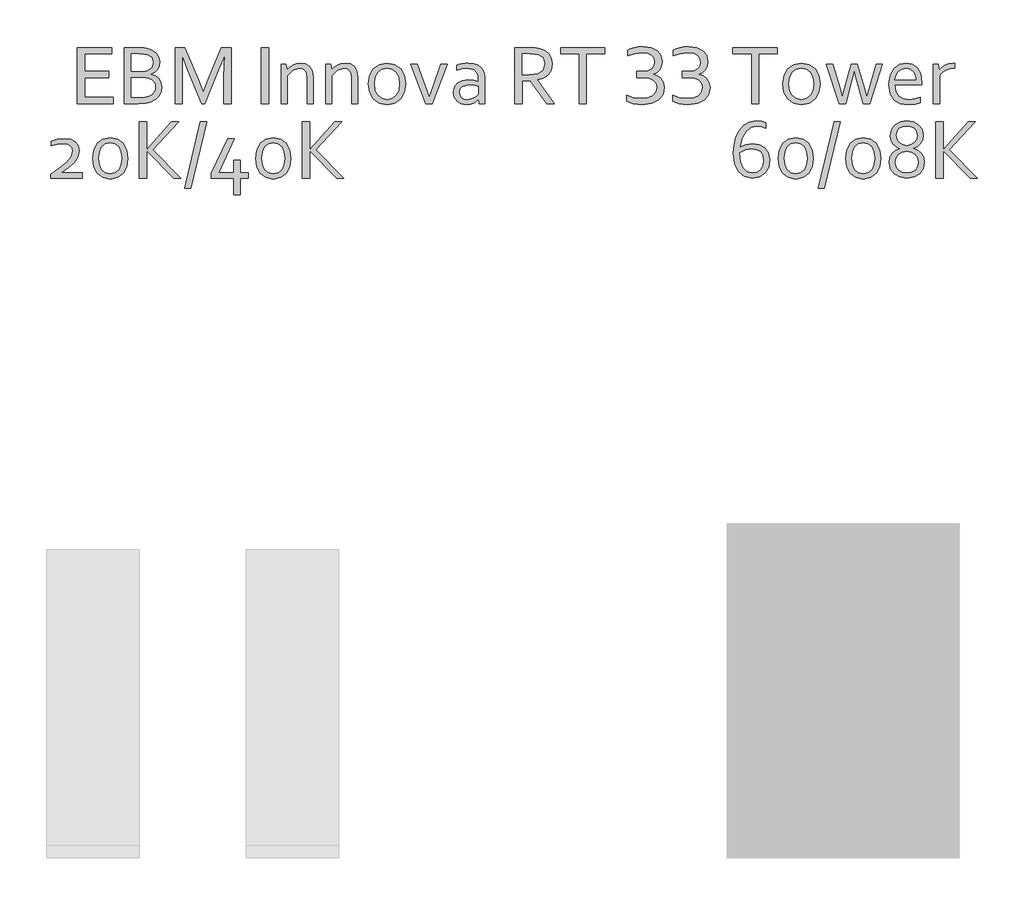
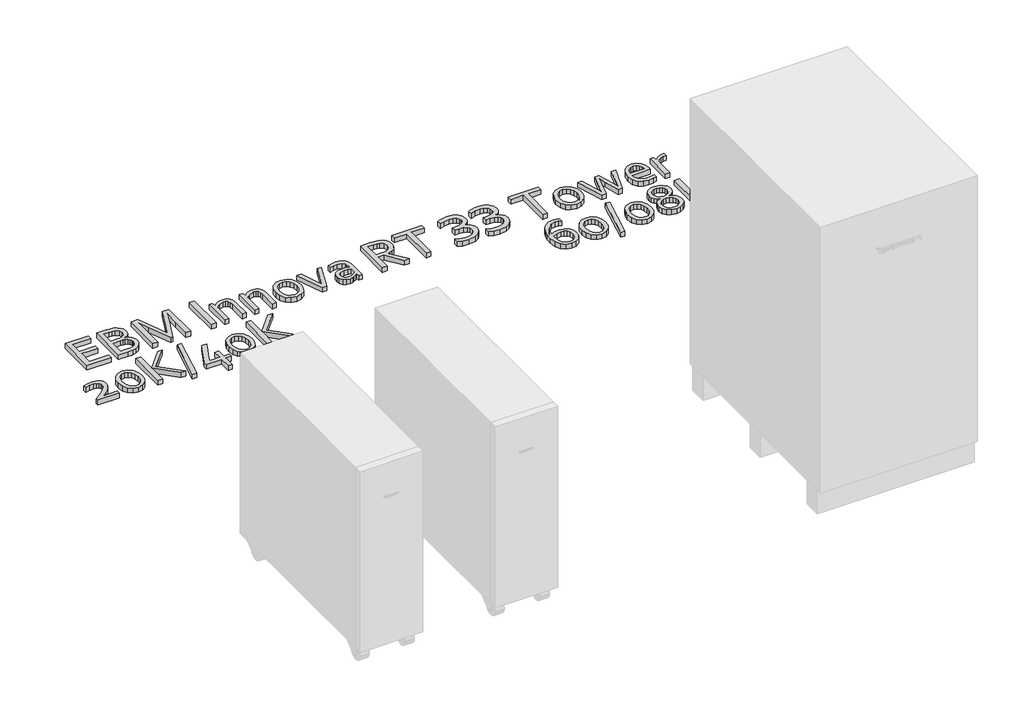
# One storey, part 6 of 10: 1 proxy.
"""IFC4 building model written with IfcOpenShell, lengths in millimetres."""

import ifcopenshell
import ifcopenshell.guid

model = None  # the IFC model being written
_history = None  # IfcOwnerHistory: only IFC2X3 demands one
_inside = {}  # id of a spatial element -> (the spatial element, [elements in it])
_under = {}  # id of a project, library or spatial element -> (it, [spatial elements below it])
_declared = {}  # id of a project -> (the project, [libraries it declares])
_typed = {}  # id of a type object -> (the type object, [elements of that type])
_made_of = {}  # id of a material, layer set ... -> (it, [elements and type objects made of it])


def new_model(schema):
    """Start an empty IFC model of exactly this schema.

    Asked for "IFC4X3", IfcOpenShell would pick the latest addendum, in which some entities
    have other attributes; the version numbers below select the first issue.
    IFC2X3 requires an IfcOwnerHistory on every rooted entity: one is made here for all.
    """
    global model, _history
    if schema == "IFC4X3":
        model = ifcopenshell.file(schema_version=(4, 3, 0, 0))
    else:
        model = ifcopenshell.file(schema=schema)
    _inside.clear()
    _under.clear()
    _declared.clear()
    _typed.clear()
    _made_of.clear()
    _history = None
    if model.schema == "IFC2X3":
        org = make("IfcOrganization", Name="unknown")
        user = make(
            "IfcPersonAndOrganization",
            ThePerson=make("IfcPerson", FamilyName="unknown"),
            TheOrganization=org,
        )
        app = make(
            "IfcApplication",
            ApplicationDeveloper=org,
            Version="unknown",
            ApplicationFullName="unknown",
            ApplicationIdentifier="unknown",
        )
        _history = make(
            "IfcOwnerHistory",
            OwningUser=user,
            OwningApplication=app,
            ChangeAction="ADDED",
            CreationDate=0,
        )
    return model


def make(cls, **values):
    """One entity of the class cls with the attributes given. An attribute that is None is left unset."""
    return model.create_entity(
        cls, **{name: value for name, value in values.items() if value is not None}
    )


def rooted(cls, **values):
    """An entity with a GlobalId (a new one), such as an element, a storey or a relation."""
    return make(cls, GlobalId=ifcopenshell.guid.new(), OwnerHistory=_history, **values)


def si_unit(unit_type, name, prefix=None):
    """IfcSIUnit, for example si_unit("LENGTHUNIT", "METRE", prefix="MILLI")."""
    return make("IfcSIUnit", UnitType=unit_type, Prefix=prefix, Name=name)


def assignment(units):
    """IfcUnitAssignment: the units of a project."""
    return None if units is None else make("IfcUnitAssignment", Units=units)


def point(xyz):
    """IfcCartesianPoint."""
    return None if xyz is None else make("IfcCartesianPoint", Coordinates=xyz)


def direction(xyz):
    """IfcDirection."""
    return None if xyz is None else make("IfcDirection", DirectionRatios=xyz)


def frame(location, z_axis=None, x_axis=None):
    """IfcAxis2Placement3D, a coordinate frame: its origin and axes. An axis left out is left unset."""
    return make(
        "IfcAxis2Placement3D",
        Location=point(location),
        Axis=direction(z_axis),
        RefDirection=direction(x_axis),
    )


def origin():
    """The frame at (0, 0, 0) with its axes left unset."""
    return frame((0.0, 0.0, 0.0))


def origin_with_axes():
    """The frame at (0, 0, 0) with the z axis (0, 0, 1) and the x axis (1, 0, 0) written out."""
    return frame((0.0, 0.0, 0.0), z_axis=(0.0, 0.0, 1.0), x_axis=(1.0, 0.0, 0.0))


def place(relative_to, where):
    """IfcLocalPlacement: puts the frame where relative to a parent placement (None: the world)."""
    return make(
        "IfcLocalPlacement", PlacementRelTo=relative_to, RelativePlacement=where
    )


def context(
    kind, dimensions, precision=None, world=None, true_north=None, identifier=None
):
    """IfcGeometricRepresentationContext, for example the 3D "Model" context."""
    return make(
        "IfcGeometricRepresentationContext",
        ContextIdentifier=identifier,
        ContextType=kind,
        CoordinateSpaceDimension=dimensions,
        Precision=precision,
        WorldCoordinateSystem=world,
        TrueNorth=true_north,
    )


def project(units=None, contexts=None):
    """IfcProject with its units and contexts."""
    return rooted(
        "IfcProject",
        Name="project",
        RepresentationContexts=contexts,
        UnitsInContext=assignment(units),
    )


def spatial(cls, under=None, at=None, **own):
    """A site, building, storey or space (cls), placed at a placement, below another one or the project."""
    s = rooted(cls, ObjectPlacement=at, **own)
    if under is not None:
        _under.setdefault(under.id(), (under, []))[1].append(s)
    return s


def polyline(points):
    """IfcPolyline through the points."""
    return make("IfcPolyline", Points=[point(p) for p in points])


def outline(outer, holes=None, kind="AREA"):
    """IfcArbitraryClosedProfileDef: a profile drawn as a closed curve; with holes, ...WithVoids."""
    if holes is None:
        return make("IfcArbitraryClosedProfileDef", ProfileType=kind, OuterCurve=outer)
    return make(
        "IfcArbitraryProfileDefWithVoids",
        ProfileType=kind,
        OuterCurve=outer,
        InnerCurves=holes,
    )


def extrude(swept, where, along, depth):
    """IfcExtrudedAreaSolid: the profile swept, set in the frame where, extruded along a direction by depth."""
    return make(
        "IfcExtrudedAreaSolid",
        SweptArea=swept,
        Position=where,
        ExtrudedDirection=direction(along),
        Depth=depth,
    )


def shape(context_of_items, identifier, shape_type, items):
    """IfcShapeRepresentation: the items that make up one representation, for example the "Body"."""
    return make(
        "IfcShapeRepresentation",
        ContextOfItems=context_of_items,
        RepresentationIdentifier=identifier,
        RepresentationType=shape_type,
        Items=items,
    )


def made_of(thing, what):
    """Note that an element or type object is made of a material, layer set ...; save() writes the relation."""
    if what is not None:
        _made_of.setdefault(what.id(), (what, []))[1].append(thing)
    return thing


def element(
    cls,
    number,
    at=None,
    inside=None,
    cuts=None,
    type_object=None,
    material=None,
    context=None,
    identifier="Body",
    shape_type=None,
    held_by="IfcProductDefinitionShape",
    body=None,
    shapes=None,
    **own,
):
    """One element of the class cls, such as IfcWall. Its Tag is "e" and its number.

    at: its placement. inside: the storey or other place that contains it. cuts: it is an
    opening in that element (IfcRelVoidsElement). A single representation is given by context,
    identifier, shape_type and body (its items); several are given by shapes. held_by: the class
    of the entity that holds the representations. save() writes the other relations.
    """
    e = rooted(cls, Tag="e%d" % number, ObjectPlacement=at, **own)
    if body is not None:
        shapes = [shape(context, identifier, shape_type, body)]
    if shapes is not None:
        e.Representation = make(held_by, Representations=shapes)
    if inside is not None:
        _inside.setdefault(inside.id(), (inside, []))[1].append(e)
    if cuts is not None:
        rooted(
            "IfcRelVoidsElement", RelatingBuildingElement=cuts, RelatedOpeningElement=e
        )
    if type_object is not None:
        _typed.setdefault(type_object.id(), (type_object, []))[1].append(e)
    return made_of(e, material)


def aggregate(whole, parts):
    """IfcRelAggregates: a whole, such as a stair, and the parts it consists of."""
    return rooted("IfcRelAggregates", RelatingObject=whole, RelatedObjects=parts)


def save(model, path):
    """Write the relations noted so far, then the file.

    IfcRelAggregates (storeys below a building ...), IfcRelContainedInSpatialStructure (elements
    in a storey), IfcRelDefinesByType, IfcRelAssociatesMaterial and IfcRelDeclares: one each for
    every whole, place, type object, material and project.
    """
    for whole, parts in _under.values():
        aggregate(whole, parts)
    for where, things in _inside.values():
        rooted(
            "IfcRelContainedInSpatialStructure",
            RelatedElements=things,
            RelatingStructure=where,
        )
    for kind, things in _typed.values():
        rooted("IfcRelDefinesByType", RelatedObjects=things, RelatingType=kind)
    for what, things in _made_of.values():
        rooted("IfcRelAssociatesMaterial", RelatedObjects=things, RelatingMaterial=what)
    for by, libraries in _declared.values():
        rooted("IfcRelDeclares", RelatingContext=by, RelatedDefinitions=libraries)
    model.write(path)


model = new_model("IFC4")

# Units and contexts
model_context = context("Model", 3, world=origin())
ifc_project = project(units=[si_unit("LENGTHUNIT", "METRE", prefix="MILLI")], contexts=[model_context])

# Site, building, storey
site = spatial("IfcSite", under=ifc_project)
building = spatial("IfcBuilding", under=site)
storey = spatial("IfcBuildingStorey", under=building, Name="Этаж 01", Elevation=0.0)

# Proxy
placement = place(None, origin())
element("IfcBuildingElementProxy", 1, Name="150 мм Corbel", ObjectType="150 мм Corbel", at=placement, inside=storey, context=model_context, shape_type="SweptSolid", body=[
    extrude(outline(polyline([(12011.2906497, -7548.6877316), (12088.2038068, -7548.6877316), (12088.2038068, -7565.4878752), (11991.6904822, -7565.4878752), (11991.6904822, -7414.2865833), (12084.0475213, -7414.2865833), (12084.0475213, -7431.0867269), (12011.2906497, -7431.0867269), (12011.2906497, -7478.6871335), (12075.9974525, -7478.6871335), (12075.9974525, -7495.4872771), (12011.2906497, -7495.4872771), (12011.2906497, -7548.6877316)])), origin_with_axes(), (0.0, 0.0, 1.0), 20.0),
    extrude(outline(polyline([(12189.004668, -7486.1246971), (12201.4953997, -7490.1278563), (12210.9017301, -7497.1497913), (12216.6330291, -7507.3217532), (12218.49242, -7520.7749931), (12216.9830321, -7532.0407144), (12211.9517391, -7543.4814371), (12202.7204102, -7553.7190246), (12188.5671643, -7561.37534), (12174.1732913, -7564.5691173), (12155.1856291, -7565.4878752), (12117.6915587, -7565.4878752), (12117.6915587, -7414.2865833), (12154.1356201, -7414.2865833), (12163.2138227, -7414.4615848), (12170.738887, -7414.9647141), (12177.1264415, -7415.7959712), (12182.7046142, -7416.9553561), (12195.1734707, -7422.1616506), (12204.7110522, -7430.0148427), (12210.770479, -7440.3836813), (12212.8923721, -7453.0056641), (12211.6017361, -7463.4838786), (12207.4454506, -7472.7370827), (12200.0516374, -7480.3277726), (12189.004668, -7486.1246971)]), holes=[polyline([(12164.4169579, -7478.6871335), (12173.4514101, -7478.1840042), (12180.342094, -7476.7183667), (12192.3296964, -7468.1214183), (12196.0922286, -7454.3181753), (12192.1546949, -7440.9961865), (12179.8170895, -7433.2742455), (12170.1920073, -7431.5898561), (12157.285647, -7431.0867269), (12137.2917262, -7431.0867269), (12137.2917262, -7478.6871335), (12164.4169579, -7478.6871335)]), polyline([(12137.2917262, -7495.4872771), (12137.2917262, -7548.6877316), (12158.5981582, -7548.6877316), (12172.6857786, -7547.9439753), (12183.7108728, -7545.5814551), (12192.1546949, -7541.1845425), (12197.7328676, -7535.2344917), (12200.7735186, -7528.3219326), (12201.6922764, -7520.9062443), (12200.707893, -7512.7030492), (12197.5141157, -7505.8342405), (12191.6734408, -7500.5185701), (12182.6608638, -7496.9747898), (12175.2233003, -7495.8372801), (12164.8982121, -7495.4872771), (12137.2917262, -7495.4872771)])]), origin_with_axes(), (0.0, 0.0, 1.0), 20.0),
    extrude(outline(polyline([(12334.7371631, -7565.4878752), (12326.2495906, -7565.4878752), (12289.2367744, -7475.1871036), (12273.8366428, -7434.6305071), (12274.4928984, -7492.3810005), (12274.4928984, -7565.4878752), (12254.8927309, -7565.4878752), (12254.8927309, -7414.2865833), (12281.3617071, -7414.2865833), (12316.7995099, -7499.8185641), (12330.1871243, -7535.2126165), (12344.1434935, -7499.8185641), (12379.6250466, -7414.2865833), (12406.0940228, -7414.2865833), (12406.0940228, -7565.4878752), (12386.4938553, -7565.4878752), (12386.4938553, -7492.3810005), (12388.0688688, -7434.6305071), (12371.7499794, -7475.1871036), (12334.7371631, -7565.4878752)])), origin_with_axes(), (0.0, 0.0, 1.0), 20.0),
    extrude(outline(polyline([(12487.2947166, -7565.4878752), (12487.2947166, -7414.2865833), (12506.894884, -7414.2865833), (12506.894884, -7565.4878752), (12487.2947166, -7565.4878752)])), origin_with_axes(), (0.0, 0.0, 1.0), 20.0),
    extrude(outline(polyline([(12557.2078139, -7473.8745924), (12563.9234963, -7467.0057837), (12571.7766884, -7461.3838607), (12581.2923947, -7457.6213286), (12592.5581159, -7456.2869422), (12606.1644822, -7458.2994594), (12617.1677012, -7464.7963899), (12624.5615143, -7476.4996149), (12627.2959127, -7494.2622666), (12627.2959127, -7565.4878752), (12610.4957692, -7565.4878752), (12610.4957692, -7496.4060349), (12609.1504452, -7484.4457765), (12605.1144732, -7476.3902389), (12598.5081667, -7471.8128561), (12589.4518394, -7470.2870618), (12571.9079395, -7475.5152314), (12557.2953146, -7489.8872292), (12557.2953146, -7565.4878752), (12540.4951711, -7565.4878752), (12540.4951711, -7459.0869661), (12553.8390351, -7459.0869661), (12557.2078139, -7473.8745924)])), origin_with_axes(), (0.0, 0.0, 1.0), 20.0),
    extrude(outline(polyline([(12677.6088426, -7473.8745924), (12684.3245249, -7467.0057837), (12692.177717, -7461.3838607), (12701.6934233, -7457.6213286), (12712.9591446, -7456.2869422), (12726.5655108, -7458.2994594), (12737.5687298, -7464.7963899), (12744.962543, -7476.4996149), (12747.6969414, -7494.2622666), (12747.6969414, -7565.4878752), (12730.8967978, -7565.4878752), (12730.8967978, -7496.4060349), (12729.5514739, -7484.4457765), (12725.5155019, -7476.3902389), (12718.9091954, -7471.8128561), (12709.852868, -7470.2870618), (12692.3089682, -7475.5152314), (12677.6963433, -7489.8872292), (12677.6963433, -7565.4878752), (12660.8961998, -7565.4878752), (12660.8961998, -7459.0869661), (12674.2400638, -7459.0869661), (12677.6088426, -7473.8745924)])), origin_with_axes(), (0.0, 0.0, 1.0), 20.0),
    extrude(outline(polyline([(12876.4980418, -7512.4186717), (12872.9323864, -7535.2344917), (12862.82605, -7552.8877675), (12847.0102899, -7564.2628647), (12826.2288623, -7568.2878991), (12805.0318062, -7564.2628647), (12789.1504206, -7552.8877675), (12779.1534601, -7535.2344917), (12775.6971806, -7512.4186717), (12779.2628361, -7489.4278503), (12789.3691724, -7471.7308241), (12805.2505581, -7460.3119765), (12826.0976112, -7456.2869422), (12847.2071666, -7460.3119765), (12863.0885523, -7471.7308241), (12873.0417623, -7489.4278503), (12876.4980418, -7512.4186717)]), holes=[polyline([(12859.6978983, -7512.4186717), (12857.204127, -7494.546644), (12850.2259424, -7481.312156), (12839.5727264, -7473.0870857), (12826.0976112, -7470.2870618), (12812.6224961, -7473.0870857), (12801.9692801, -7481.312156), (12794.9910955, -7494.546644), (12792.4973241, -7512.4186717), (12794.9910955, -7530.1594483), (12802.0349056, -7543.3283108), (12812.731872, -7551.4877555), (12826.2288623, -7554.2877795), (12839.6383519, -7551.4877555), (12850.2259424, -7543.3283108), (12857.204127, -7530.1594483), (12859.6978983, -7512.4186717)])]), origin_with_axes(), (0.0, 0.0, 1.0), 20.0),
    extrude(outline(polyline([(12939.4110794, -7547.9002249), (12950.1736713, -7518.2374715), (12971.6988552, -7459.0869661), (12988.4989988, -7459.0869661), (12948.4674067, -7565.4878752), (12930.5297535, -7565.4878752), (12890.4981615, -7459.0869661), (12907.298305, -7459.0869661), (12928.6922378, -7518.2374715), (12939.4110794, -7547.9002249)])), origin_with_axes(), (0.0, 0.0, 1.0), 20.0),
    extrude(outline(polyline([(13073.0247209, -7553.7190246), (13067.2277964, -7559.034695), (13059.812108, -7563.7597354), (13050.6245295, -7567.0628886), (13039.9931887, -7568.2878991), (13025.9711939, -7566.0347548), (13015.0117253, -7559.4065732), (13007.8585392, -7548.7533572), (13005.2991423, -7534.5126105), (13008.1429166, -7520.5124909), (13016.1054846, -7510.0342764), (13028.4212148, -7503.4060947), (13044.3244757, -7501.0873249), (13059.571481, -7502.5748376), (13072.0622127, -7505.9436164), (13072.4997164, -7498.3310514), (13071.9309616, -7489.9966052), (13070.0059451, -7483.6309258), (13060.7308659, -7474.0714691), (13043.4494682, -7470.2870618), (13028.2462133, -7471.7745745), (13014.0929674, -7475.8871096), (13014.0929674, -7462.1932426), (13020.4148964, -7459.8088472), (13028.093087, -7457.905706), (13036.6025347, -7456.7025707), (13045.5932366, -7456.2869422), (13060.2277366, -7457.7142981), (13071.8434608, -7461.9963659), (13080.5060348, -7468.6300164), (13086.2810842, -7477.1121201), (13088.599854, -7485.0090626), (13089.29986, -7494.4810185), (13089.29986, -7565.4878752), (13074.905987, -7565.4878752), (13073.0247209, -7553.7190246)]), holes=[polyline([(13072.4997164, -7519.0687286), (13060.8839922, -7516.4655813), (13046.118241, -7515.0874445), (13028.4649652, -7519.8562353), (13023.6907057, -7525.9047245), (13022.0992858, -7534.5126105), (13023.6961745, -7543.2626853), (13028.0712119, -7549.4533632), (13034.6556431, -7553.0846442), (13042.7932126, -7554.2877795), (13053.3808031, -7552.6471404), (13062.0871275, -7548.731482), (13068.5621828, -7544.1814431), (13072.4997164, -7540.6376628), (13072.4997164, -7519.0687286)])]), origin_with_axes(), (0.0, 0.0, 1.0), 20.0),
    extrude(outline(polyline([(13190.1007212, -7503.8873488), (13190.1007212, -7565.4878752), (13170.5005537, -7565.4878752), (13170.5005537, -7414.2865833), (13209.4821368, -7414.2865833), (13226.2822803, -7415.0303397), (13238.9261384, -7417.3928599), (13252.816882, -7423.2554099), (13262.9888439, -7432.1804862), (13269.2232722, -7443.9383992), (13271.301415, -7458.2994594), (13268.3920151, -7474.880851), (13260.2106952, -7487.5684594), (13247.5887124, -7496.3622846), (13231.2698229, -7501.3935775), (13276.9014628, -7565.4878752), (13257.3012954, -7565.4878752), (13211.844657, -7503.8873488), (13190.1007212, -7503.8873488)]), holes=[polyline([(13190.1007212, -7431.0867269), (13190.1007212, -7487.0872053), (13207.7758722, -7487.0872053), (13221.8197422, -7486.5184504), (13232.2760815, -7484.4621829), (13246.6480793, -7474.9683518), (13251.7012475, -7457.9494564), (13246.8668312, -7442.111821), (13233.8073446, -7433.4929974), (13224.3791391, -7431.6554817), (13210.4008946, -7431.0867269), (13190.1007212, -7431.0867269)])]), origin_with_axes(), (0.0, 0.0, 1.0), 20.0),
    extrude(outline(polyline([(13363.7022044, -7565.4878752), (13344.102037, -7565.4878752), (13344.102037, -7431.0867269), (13294.007859, -7431.0867269), (13294.007859, -7414.2865833), (13413.7963824, -7414.2865833), (13413.7963824, -7431.0867269), (13363.7022044, -7431.0867269), (13363.7022044, -7565.4878752)])), origin_with_axes(), (0.0, 0.0, 1.0), 20.0),
    extrude(outline(polyline([(13474.8719042, -7420.9803905), (13482.4844693, -7417.5678613), (13492.1751771, -7414.5709607), (13503.6596502, -7412.3615669), (13516.5660105, -7411.4865594), (13538.4849477, -7414.2865833), (13554.672586, -7422.3804025), (13564.6914216, -7435.2648875), (13568.1039508, -7452.5681604), (13566.135184, -7465.0370169), (13560.8195136, -7474.5745984), (13552.9881966, -7481.4871575), (13543.5599911, -7486.0371963), (13554.9350883, -7490.674736), (13564.2539179, -7497.5435446), (13570.9696003, -7507.6717562), (13573.7039986, -7521.4312487), (13570.2258439, -7539.5876539), (13559.3101257, -7554.5065313), (13540.4318394, -7564.5691173), (13512.9784798, -7568.2878991), (13490.5782884, -7565.9035037), (13472.7281359, -7559.144071), (13472.7281359, -7542.8689319), (13490.3157862, -7549.1471105), (13510.8347115, -7551.4877555), (13529.6145594, -7549.5080511), (13543.1662377, -7543.5689379), (13551.3694328, -7533.9657308), (13554.1038312, -7520.993745), (13551.7084982, -7510.1764651), (13544.5224993, -7502.1373339), (13532.5458345, -7497.1497913), (13515.7785037, -7495.4872771), (13498.8471091, -7495.4872771), (13498.8471091, -7478.6871335), (13514.1159895, -7478.6871335), (13530.6973812, -7476.8277427), (13541.2849717, -7471.6214482), (13546.8850195, -7463.7026305), (13548.5037833, -7453.7494205), (13546.4912661, -7443.4243323), (13540.2130875, -7435.3523883), (13529.4067452, -7430.1460938), (13513.6347354, -7428.2867029), (13493.7501905, -7430.5835976), (13474.8719042, -7436.6867747), (13474.8719042, -7420.9803905)])), origin_with_axes(), (0.0, 0.0, 1.0), 20.0),
    extrude(outline(polyline([(13598.0729568, -7420.9803905), (13605.6855219, -7417.5678613), (13615.3762297, -7414.5709607), (13626.8607028, -7412.3615669), (13639.7670631, -7411.4865594), (13661.6860003, -7414.2865833), (13677.8736386, -7422.3804025), (13687.8924742, -7435.2648875), (13691.3050034, -7452.5681604), (13689.3362366, -7465.0370169), (13684.0205662, -7474.5745984), (13676.1892493, -7481.4871575), (13666.7610437, -7486.0371963), (13678.1361409, -7490.674736), (13687.4549705, -7497.5435446), (13694.1706529, -7507.6717562), (13696.9050512, -7521.4312487), (13693.4268965, -7539.5876539), (13682.5111783, -7554.5065313), (13663.632892, -7564.5691173), (13636.1795324, -7568.2878991), (13613.779341, -7565.9035037), (13595.9291885, -7559.144071), (13595.9291885, -7542.8689319), (13613.5168388, -7549.1471105), (13634.0357641, -7551.4877555), (13652.8156121, -7549.5080511), (13666.3672903, -7543.5689379), (13674.5704854, -7533.9657308), (13677.3048838, -7520.993745), (13674.9095508, -7510.1764651), (13667.7235519, -7502.1373339), (13655.7468871, -7497.1497913), (13638.9795563, -7495.4872771), (13622.0481617, -7495.4872771), (13622.0481617, -7478.6871335), (13637.3170421, -7478.6871335), (13653.8984338, -7476.8277427), (13664.4860243, -7471.6214482), (13670.0860721, -7463.7026305), (13671.7048359, -7453.7494205), (13669.6923187, -7443.4243323), (13663.4141401, -7435.3523883), (13652.6077978, -7430.1460938), (13636.835788, -7428.2867029), (13616.9512431, -7430.5835976), (13598.0729568, -7436.6867747), (13598.0729568, -7420.9803905)])), origin_with_axes(), (0.0, 0.0, 1.0), 20.0),
    extrude(outline(polyline([(13828.5061756, -7565.4878752), (13808.9060082, -7565.4878752), (13808.9060082, -7431.0867269), (13758.8118302, -7431.0867269), (13758.8118302, -7414.2865833), (13878.6003536, -7414.2865833), (13878.6003536, -7431.0867269), (13828.5061756, -7431.0867269), (13828.5061756, -7565.4878752)])), origin_with_axes(), (0.0, 0.0, 1.0), 20.0),
    extrude(outline(polyline([(13993.7075871, -7512.4186717), (13990.1419316, -7535.2344917), (13980.0355953, -7552.8877675), (13964.2198351, -7564.2628647), (13943.4384076, -7568.2878991), (13922.2413515, -7564.2628647), (13906.3599658, -7552.8877675), (13896.3630054, -7535.2344917), (13892.9067259, -7512.4186717), (13896.4723813, -7489.4278503), (13906.5787177, -7471.7308241), (13922.4601034, -7460.3119765), (13943.3071565, -7456.2869422), (13964.4167118, -7460.3119765), (13980.2980975, -7471.7308241), (13990.2513075, -7489.4278503), (13993.7075871, -7512.4186717)]), holes=[polyline([(13976.9074435, -7512.4186717), (13974.4136722, -7494.546644), (13967.4354876, -7481.312156), (13956.7822716, -7473.0870857), (13943.3071565, -7470.2870618), (13929.8320413, -7473.0870857), (13919.1788253, -7481.312156), (13912.2006407, -7494.546644), (13909.7068694, -7512.4186717), (13912.2006407, -7530.1594483), (13919.2444509, -7543.3283108), (13929.9414173, -7551.4877555), (13943.4384076, -7554.2877795), (13956.8478972, -7551.4877555), (13967.4354876, -7543.3283108), (13974.4136722, -7530.1594483), (13976.9074435, -7512.4186717)])]), origin_with_axes(), (0.0, 0.0, 1.0), 20.0),
    extrude(outline(polyline([(14086.0208758, -7476.6746163), (14079.4145693, -7502.0060828), (14062.3081732, -7565.4878752), (14044.851774, -7565.4878752), (14010.5077306, -7459.0869661), (14027.3078742, -7459.0869661), (14047.5205468, -7525.3687824), (14053.6018488, -7546.3252114), (14059.945653, -7523.0500126), (14077.7083048, -7459.0869661), (14094.5084483, -7459.0869661), (14113.2336083, -7523.0500126), (14119.4899117, -7546.3252114), (14125.7024648, -7525.3687824), (14144.9088789, -7459.0869661), (14161.7090225, -7459.0869661), (14127.364979, -7565.4878752), (14109.7335784, -7565.4878752), (14092.5834319, -7502.0060828), (14086.0208758, -7476.6746163)])), origin_with_axes(), (0.0, 0.0, 1.0), 20.0),
    extrude(outline(polyline([(14233.8533888, -7554.2877795), (14249.6253986, -7552.8221419), (14263.8223949, -7548.6877316), (14263.8223949, -7562.5128497), (14249.6910242, -7566.7347608), (14231.6221198, -7568.2878991), (14210.1625614, -7565.3784992), (14193.143666, -7555.9721688), (14182.3373237, -7538.9970238), (14178.509166, -7513.731183), (14182.49045, -7488.4872173), (14193.0780405, -7470.6370648), (14208.3031705, -7459.8744728), (14226.2845742, -7456.2869422), (14242.7784651, -7459.2182172), (14256.0785787, -7468.4495461), (14264.9817798, -7484.7028099), (14268.2411826, -7508.5686388), (14268.2411826, -7510.8217831), (14268.1099315, -7515.0874445), (14194.3905517, -7515.0874445), (14197.474953, -7533.2876), (14205.8969, -7545.4064536), (14218.4095069, -7552.1658863), (14233.8533888, -7554.2877795)]), holes=[polyline([(14225.5408178, -7470.2870618), (14214.0344695, -7472.7152075), (14204.7593903, -7479.321514), (14198.3280853, -7489.0997225), (14195.3093095, -7501.0873249), (14251.309788, -7501.0873249), (14249.6253986, -7488.9903466), (14244.6597312, -7479.212138), (14236.6096624, -7472.6714571), (14225.5408178, -7470.2870618)])]), origin_with_axes(), (0.0, 0.0, 1.0), 20.0),
    extrude(outline(polyline([(14356.7044385, -7470.2870618), (14343.2730737, -7471.4464467), (14332.1167284, -7474.9683518), (14322.710398, -7480.8090267), (14315.7103382, -7489.0122218), (14315.7103382, -7565.4878752), (14298.9101947, -7565.4878752), (14298.9101947, -7459.0869661), (14311.9040557, -7459.0869661), (14315.1415834, -7476.0183607), (14321.7916402, -7468.2745446), (14330.2573375, -7461.9963659), (14340.5824257, -7457.7963301), (14352.3731515, -7456.2869422), (14354.6481709, -7456.3306925), (14356.7044385, -7456.4619437), (14356.7044385, -7470.2870618)])), origin_with_axes(), (0.0, 0.0, 1.0), 20.0),
    extrude(outline(polyline([(11948.0713595, -7752.3256899), (11971.2590576, -7751.8881861), (12004.9468455, -7751.8881861), (12004.9468455, -7765.8883058), (11919.6773669, -7765.8883058), (11919.6773669, -7756.3507243), (11943.4556951, -7738.5661973), (11962.2246054, -7722.7504372), (11974.6059612, -7708.0065612), (11979.0903745, -7693.5689379), (11977.5208299, -7684.9610518), (11972.8121959, -7678.6500604), (11965.1613493, -7674.7781523), (11954.7651667, -7673.4875163), (11937.7900217, -7675.084405), (11920.8148766, -7679.0875642), (11920.8148766, -7667.012461), (11936.5650112, -7661.7405409), (11957.1276869, -7659.4873967), (11973.2715748, -7661.7186658), (11985.4998043, -7668.2155963), (11993.1779949, -7678.7594363), (11995.8905181, -7693.2626853), (11992.3467378, -7709.6253251), (11982.5466541, -7724.2379499), (11967.321524, -7738.063068), (11948.0713595, -7752.3256899)])), origin_with_axes(), (0.0, 0.0, 1.0), 20.0),
    extrude(outline(polyline([(12127.4916425, -7712.8191023), (12124.27599, -7734.9130411), (12114.9352852, -7752.6538177), (12100.0382829, -7764.4226682), (12079.9787365, -7768.6883297), (12059.5254368, -7764.4226682), (12044.5628089, -7752.6538177), (12035.3971056, -7734.9130411), (12032.2908291, -7712.8191023), (12035.5064816, -7690.5720373), (12044.8471864, -7672.7656351), (12059.8098142, -7660.9530342), (12079.8912358, -7656.6873728), (12100.2570348, -7660.9530342), (12115.2196626, -7672.7656351), (12124.3853659, -7690.5720373), (12127.4916425, -7712.8191023)]), holes=[polyline([(12110.6914989, -7712.8191023), (12108.5039802, -7695.1658265), (12102.3133023, -7681.9313384), (12092.6444697, -7673.5968922), (12079.8912358, -7670.6874924), (12067.1380018, -7673.5968922), (12057.4254188, -7681.9313384), (12051.2347409, -7695.1658265), (12049.0909726, -7712.8191023), (12051.2784913, -7730.3192519), (12057.4691692, -7743.5099896), (12067.2036274, -7751.7788102), (12080.0224869, -7754.6882101), (12092.7538457, -7751.7788102), (12102.4226783, -7743.5099896), (12108.5477306, -7730.3192519), (12110.6914989, -7712.8191023)])]), origin_with_axes(), (0.0, 0.0, 1.0), 20.0),
    extrude(outline(polyline([(12158.2919056, -7765.8883058), (12158.2919056, -7614.6870139), (12177.8920731, -7614.6870139), (12177.8920731, -7689.368902), (12245.0926472, -7614.6870139), (12264.6928147, -7614.6870139), (12194.735967, -7689.9376569), (12270.2928625, -7765.8883058), (12250.6926951, -7765.8883058), (12178.1108249, -7691.8626733), (12178.1108249, -7765.8883058), (12158.2919056, -7765.8883058)])), origin_with_axes(), (0.0, 0.0, 1.0), 20.0),
    extrude(outline(polyline([(12280.7054515, -7793.888545), (12323.3183156, -7614.6870139), (12339.8997072, -7614.6870139), (12297.2868432, -7793.888545), (12280.7054515, -7793.888545)])), origin_with_axes(), (0.0, 0.0, 1.0), 20.0),
    extrude(outline(polyline([(12371.9249809, -7751.8881861), (12388.5501229, -7751.8881861), (12413.0940826, -7751.8881861), (12413.0940826, -7717.806645), (12429.8942261, -7717.806645), (12429.8942261, -7751.8881861), (12451.9881649, -7751.8881861), (12451.9881649, -7766.9383147), (12429.8942261, -7766.9383147), (12429.8942261, -7810.6886885), (12413.0940826, -7810.6886885), (12413.0940826, -7765.8883058), (12352.1060615, -7765.8883058), (12352.1060615, -7753.1131966), (12396.2501887, -7659.4873967), (12414.9315983, -7659.4873967), (12371.9249809, -7751.8881861)])), origin_with_axes(), (0.0, 0.0, 1.0), 20.0),
    extrude(outline(polyline([(12567.0953984, -7712.8191023), (12563.8797459, -7734.9130411), (12554.5390411, -7752.6538177), (12539.6420388, -7764.4226682), (12519.5824924, -7768.6883297), (12499.1291927, -7764.4226682), (12484.1665648, -7752.6538177), (12475.0008615, -7734.9130411), (12471.894585, -7712.8191023), (12475.1102374, -7690.5720373), (12484.4509423, -7672.7656351), (12499.4135701, -7660.9530342), (12519.4949917, -7656.6873728), (12539.8607907, -7660.9530342), (12554.8234185, -7672.7656351), (12563.9891218, -7690.5720373), (12567.0953984, -7712.8191023)]), holes=[polyline([(12550.2952548, -7712.8191023), (12548.1077361, -7695.1658265), (12541.9170582, -7681.9313384), (12532.2482256, -7673.5968922), (12519.4949917, -7670.6874924), (12506.7417577, -7673.5968922), (12497.0291747, -7681.9313384), (12490.8384968, -7695.1658265), (12488.6947285, -7712.8191023), (12490.8822472, -7730.3192519), (12497.0729251, -7743.5099896), (12506.8073833, -7751.7788102), (12519.6262428, -7754.6882101), (12532.3576016, -7751.7788102), (12542.0264342, -7743.5099896), (12548.1514865, -7730.3192519), (12550.2952548, -7712.8191023)])]), origin_with_axes(), (0.0, 0.0, 1.0), 20.0),
    extrude(outline(polyline([(12597.8956615, -7765.8883058), (12597.8956615, -7614.6870139), (12617.495829, -7614.6870139), (12617.495829, -7689.368902), (12684.6964031, -7614.6870139), (12704.2965706, -7614.6870139), (12634.3397229, -7689.9376569), (12709.8966184, -7765.8883058), (12690.296451, -7765.8883058), (12617.7145808, -7691.8626733), (12617.7145808, -7765.8883058), (12597.8956615, -7765.8883058)])), origin_with_axes(), (0.0, 0.0, 1.0), 20.0),
    extrude(outline(polyline([(13810.4810216, -7673.4875163), (13829.490559, -7676.3312906), (13844.5406876, -7684.7313624), (13854.3845217, -7698.4471046), (13857.9064268, -7717.2816405), (13854.6688992, -7736.9255583), (13845.3063192, -7752.2819395), (13830.3436913, -7762.2788999), (13810.2622698, -7765.8883058), (13788.9995881, -7761.228891), (13773.183828, -7747.9069021), (13763.3181187, -7726.9285979), (13759.9055895, -7699.3002368), (13761.6118541, -7676.5281673), (13766.7087726, -7655.7686149), (13775.1307196, -7638.0059632), (13787.227698, -7624.1370947), (13803.0434581, -7615.1026425), (13822.1186211, -7611.88699), (13836.7968715, -7613.5495042), (13847.1000845, -7617.0932845), (13847.1000845, -7631.4871575), (13836.3593677, -7627.6152494), (13823.3436315, -7625.8871096), (13807.7247481, -7629.212138), (13793.9871307, -7639.4716007), (13783.487041, -7657.0811261), (13777.4932398, -7682.3250918), (13793.8121292, -7675.8937869), (13810.4810216, -7673.4875163)]), holes=[polyline([(13811.0497765, -7751.8881861), (13822.8623774, -7749.7006675), (13832.3999589, -7743.2693625), (13838.7875135, -7732.7692728), (13841.1062833, -7718.4629006), (13838.6562623, -7703.9596517), (13831.9843303, -7694.3564446), (13822.0967459, -7689.0845246), (13809.9997675, -7687.4876359), (13792.6964947, -7690.3532854), (13776.7057331, -7697.3752204), (13779.1338788, -7721.4160508), (13786.2433145, -7738.4568214), (13797.1590328, -7748.5631577), (13811.0497765, -7751.8881861)])]), origin_with_axes(), (0.0, 0.0, 1.0), 20.0),
    extrude(outline(polyline([(13975.5074316, -7712.8191023), (13972.2917791, -7734.9130411), (13962.9510743, -7752.6538177), (13948.054072, -7764.4226682), (13927.9945256, -7768.6883297), (13907.5412259, -7764.4226682), (13892.578598, -7752.6538177), (13883.4128947, -7734.9130411), (13880.3066182, -7712.8191023), (13883.5222707, -7690.5720373), (13892.8629755, -7672.7656351), (13907.8256033, -7660.9530342), (13927.9070249, -7656.6873728), (13948.2728239, -7660.9530342), (13963.2354517, -7672.7656351), (13972.401155, -7690.5720373), (13975.5074316, -7712.8191023)]), holes=[polyline([(13958.707288, -7712.8191023), (13956.5197694, -7695.1658265), (13950.3290915, -7681.9313384), (13940.6602589, -7673.5968922), (13927.9070249, -7670.6874924), (13915.1537909, -7673.5968922), (13905.4412079, -7681.9313384), (13899.2505301, -7695.1658265), (13897.1067617, -7712.8191023), (13899.2942804, -7730.3192519), (13905.4849583, -7743.5099896), (13915.2194165, -7751.7788102), (13928.038276, -7754.6882101), (13940.7696348, -7751.7788102), (13950.4384674, -7743.5099896), (13956.5635197, -7730.3192519), (13958.707288, -7712.8191023)])]), origin_with_axes(), (0.0, 0.0, 1.0), 20.0),
    extrude(outline(polyline([(13988.7200445, -7793.888545), (14031.3329085, -7614.6870139), (14047.9143002, -7614.6870139), (14005.3014361, -7793.888545), (13988.7200445, -7793.888545)])), origin_with_axes(), (0.0, 0.0, 1.0), 20.0),
    extrude(outline(polyline([(14157.5089866, -7712.8191023), (14154.2933341, -7734.9130411), (14144.9526293, -7752.6538177), (14130.055627, -7764.4226682), (14109.9960806, -7768.6883297), (14089.5427809, -7764.4226682), (14074.580153, -7752.6538177), (14065.4144497, -7734.9130411), (14062.3081732, -7712.8191023), (14065.5238257, -7690.5720373), (14074.8645305, -7672.7656351), (14089.8271583, -7660.9530342), (14109.9085799, -7656.6873728), (14130.2743789, -7660.9530342), (14145.2370067, -7672.7656351), (14154.40271, -7690.5720373), (14157.5089866, -7712.8191023)]), holes=[polyline([(14140.708843, -7712.8191023), (14138.5213243, -7695.1658265), (14132.3306464, -7681.9313384), (14122.6618138, -7673.5968922), (14109.9085799, -7670.6874924), (14097.1553459, -7673.5968922), (14087.4427629, -7681.9313384), (14081.252085, -7695.1658265), (14079.1083167, -7712.8191023), (14081.2958354, -7730.3192519), (14087.4865133, -7743.5099896), (14097.2209715, -7751.7788102), (14110.039831, -7754.6882101), (14122.7711898, -7751.7788102), (14132.4400224, -7743.5099896), (14138.5650747, -7730.3192519), (14140.708843, -7712.8191023)])]), origin_with_axes(), (0.0, 0.0, 1.0), 20.0),
    extrude(outline(polyline([(14227.5095846, -7765.8883058), (14208.0625435, -7762.7164037), (14193.0124149, -7753.9882041), (14183.3217071, -7740.8193416), (14179.909178, -7724.3254507), (14182.0966966, -7709.7565762), (14188.2654993, -7698.7533572), (14197.5624538, -7691.0314162), (14208.828175, -7686.5251277), (14198.4593364, -7680.9907054), (14190.1686406, -7673.2906396), (14184.6779687, -7663.0968025), (14182.7092019, -7650.5185701), (14186.471734, -7633.9153032), (14196.5124448, -7621.7964497), (14210.818817, -7614.3807613), (14227.5095846, -7611.88699), (14244.2003522, -7614.3807613), (14258.5067245, -7621.7964497), (14268.5474353, -7633.9153032), (14272.3099674, -7650.5185701), (14270.1224487, -7663.0968025), (14264.2380234, -7673.2906396), (14255.5973246, -7680.9907054), (14245.0534845, -7686.087624), (14256.4942073, -7691.0314162), (14266.1849151, -7698.7533572), (14272.7474711, -7709.7565762), (14275.1099913, -7724.3254507), (14271.6974622, -7740.8193416), (14262.0067544, -7753.9882041), (14246.9566258, -7762.7164037), (14227.5095846, -7765.8883058)]), holes=[polyline([(14227.5095846, -7625.8871096), (14216.3313641, -7627.5058734), (14207.4281631, -7632.3184146), (14201.5874882, -7640.1059811), (14199.5093454, -7650.7373219), (14201.3468611, -7661.0952229), (14206.8594082, -7669.3312308), (14215.6969837, -7675.3578448), (14227.5095846, -7679.0875642), (14239.3221856, -7675.3578448), (14248.1597611, -7669.3312308), (14253.6723082, -7661.0952229), (14255.5098239, -7650.7373219), (14253.4316811, -7640.1059811), (14247.5910062, -7632.3184146), (14238.7315555, -7627.5058734), (14227.5095846, -7625.8871096)]), polyline([(14227.5095846, -7693.0876838), (14215.5219822, -7695.9095829), (14205.7218985, -7701.7502578), (14199.115592, -7710.8722107), (14196.7093215, -7723.5379439), (14199.0499665, -7735.3505449), (14205.5031466, -7744.3193715), (14215.25948, -7749.9412945), (14227.5095846, -7751.8881861), (14239.8909404, -7749.9412945), (14249.6472738, -7744.3193715), (14256.0348284, -7735.3505449), (14258.3098478, -7723.5379439), (14255.9035772, -7710.8722107), (14249.2972708, -7701.7502578), (14239.4971871, -7695.9095829), (14227.5095846, -7693.0876838)])]), origin_with_axes(), (0.0, 0.0, 1.0), 20.0),
    extrude(outline(polyline([(14305.9102545, -7765.8883058), (14305.9102545, -7614.6870139), (14325.5104219, -7614.6870139), (14325.5104219, -7689.368902), (14392.7109961, -7614.6870139), (14412.3111636, -7614.6870139), (14342.3543159, -7689.9376569), (14417.9112114, -7765.8883058), (14398.3110439, -7765.8883058), (14325.7291738, -7691.8626733), (14325.7291738, -7765.8883058), (14305.9102545, -7765.8883058)])), origin_with_axes(), (0.0, 0.0, 1.0), 20.0),
])

save(model, "model.ifc")
